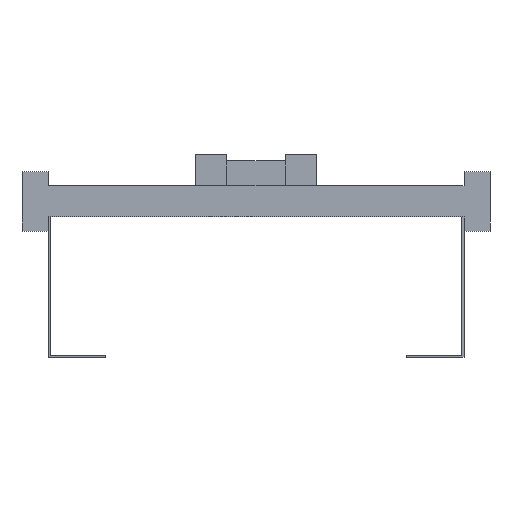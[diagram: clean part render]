
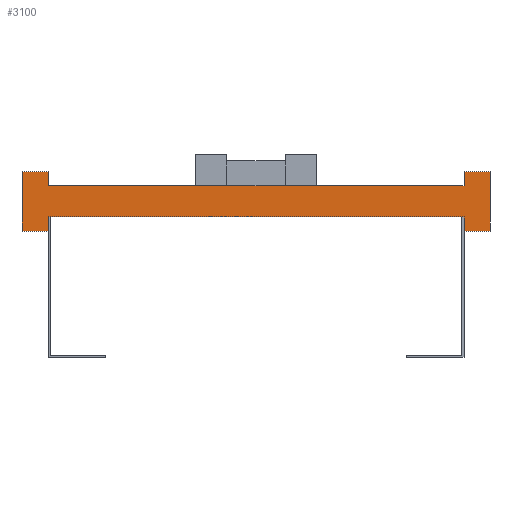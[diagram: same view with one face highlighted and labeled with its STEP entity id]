
A CAD part, front view. The second image highlights one B-rep face of the part: STEP entity #3100.
In plain terms, the highlighted planar face has unit normal (0, -1, 0).
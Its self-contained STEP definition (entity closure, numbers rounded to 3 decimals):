
#1=DIRECTION('',(0.,0.,1.));
#2=VECTOR('',#1,13.5);
#3=CARTESIAN_POINT('',(200.,0.,-28.5));
#4=LINE('',#3,#2);
#5=DIRECTION('',(0.,0.,-1.));
#6=VECTOR('',#5,13.5);
#7=CARTESIAN_POINT('',(-200.,0.,-15.));
#8=LINE('',#7,#6);
#9=DIRECTION('',(-1.,0.,0.));
#10=VECTOR('',#9,25.);
#11=CARTESIAN_POINT('',(-200.,0.,-28.5));
#12=LINE('',#11,#10);
#13=DIRECTION('',(0.,0.,1.));
#14=VECTOR('',#13,57.);
#15=CARTESIAN_POINT('',(-225.,0.,-28.5));
#16=LINE('',#15,#14);
#17=DIRECTION('',(1.,0.,0.));
#18=VECTOR('',#17,25.);
#19=CARTESIAN_POINT('',(-225.,0.,28.5));
#20=LINE('',#19,#18);
#21=DIRECTION('',(0.,0.,-1.));
#22=VECTOR('',#21,13.5);
#23=CARTESIAN_POINT('',(-200.,0.,28.5));
#24=LINE('',#23,#22);
#25=DIRECTION('',(0.,0.,1.));
#26=VECTOR('',#25,13.5);
#27=CARTESIAN_POINT('',(200.,0.,15.));
#28=LINE('',#27,#26);
#29=DIRECTION('',(1.,0.,0.));
#30=VECTOR('',#29,25.);
#31=CARTESIAN_POINT('',(200.,0.,28.5));
#32=LINE('',#31,#30);
#33=DIRECTION('',(0.,0.,-1.));
#34=VECTOR('',#33,57.);
#35=CARTESIAN_POINT('',(225.,0.,28.5));
#36=LINE('',#35,#34);
#37=DIRECTION('',(-1.,0.,0.));
#38=VECTOR('',#37,25.);
#39=CARTESIAN_POINT('',(225.,0.,-28.5));
#40=LINE('',#39,#38);
#2329=DIRECTION('',(1.,0.,0.));
#2330=VECTOR('',#2329,400.);
#2331=CARTESIAN_POINT('',(-200.,0.,-15.));
#2332=LINE('',#2331,#2330);
#2341=DIRECTION('',(1.,0.,0.));
#2342=VECTOR('',#2341,400.);
#2343=CARTESIAN_POINT('',(-200.,0.,15.));
#2344=LINE('',#2343,#2342);
#2345=CARTESIAN_POINT('',(-225.,0.,28.5));
#2346=CARTESIAN_POINT('',(-200.,0.,28.5));
#2347=VERTEX_POINT('',#2345);
#2348=VERTEX_POINT('',#2346);
#2349=CARTESIAN_POINT('',(-200.,0.,-28.5));
#2350=CARTESIAN_POINT('',(-225.,0.,-28.5));
#2351=VERTEX_POINT('',#2349);
#2352=VERTEX_POINT('',#2350);
#2353=CARTESIAN_POINT('',(225.,0.,28.5));
#2354=CARTESIAN_POINT('',(225.,0.,-28.5));
#2355=VERTEX_POINT('',#2353);
#2356=VERTEX_POINT('',#2354);
#2357=CARTESIAN_POINT('',(200.,0.,-28.5));
#2358=VERTEX_POINT('',#2357);
#2359=CARTESIAN_POINT('',(200.,0.,28.5));
#2360=VERTEX_POINT('',#2359);
#2377=CARTESIAN_POINT('',(-200.,0.,-15.));
#2379=VERTEX_POINT('',#2377);
#2381=CARTESIAN_POINT('',(-200.,0.,15.));
#2383=VERTEX_POINT('',#2381);
#2385=CARTESIAN_POINT('',(200.,0.,-15.));
#2387=VERTEX_POINT('',#2385);
#2389=CARTESIAN_POINT('',(200.,0.,15.));
#2391=VERTEX_POINT('',#2389);
#3069=CARTESIAN_POINT('',(0.,0.,0.));
#3070=DIRECTION('',(0.,1.,0.));
#3071=DIRECTION('',(1.,0.,0.));
#3072=AXIS2_PLACEMENT_3D('',#3069,#3070,#3071);
#3073=PLANE('',#3072);
#3075=ORIENTED_EDGE('',*,*,#3074,.T.);
#3077=ORIENTED_EDGE('',*,*,#3076,.F.);
#3079=ORIENTED_EDGE('',*,*,#3078,.T.);
#3081=ORIENTED_EDGE('',*,*,#3080,.T.);
#3083=ORIENTED_EDGE('',*,*,#3082,.T.);
#3085=ORIENTED_EDGE('',*,*,#3084,.T.);
#3087=ORIENTED_EDGE('',*,*,#3086,.T.);
#3089=ORIENTED_EDGE('',*,*,#3088,.T.);
#3091=ORIENTED_EDGE('',*,*,#3090,.T.);
#3093=ORIENTED_EDGE('',*,*,#3092,.T.);
#3095=ORIENTED_EDGE('',*,*,#3094,.T.);
#3097=ORIENTED_EDGE('',*,*,#3096,.T.);
#3098=EDGE_LOOP('',(#3075,#3077,#3079,#3081,#3083,#3085,#3087,#3089,#3091,#3093,
#3095,#3097));
#3099=FACE_OUTER_BOUND('',#3098,.F.);
#3100=ADVANCED_FACE('',(#3099),#3073,.F.);
#3074=EDGE_CURVE('',#2358,#2387,#4,.T.);
#3076=EDGE_CURVE('',#2379,#2387,#2332,.T.);
#3078=EDGE_CURVE('',#2379,#2351,#8,.T.);
#3080=EDGE_CURVE('',#2351,#2352,#12,.T.);
#3082=EDGE_CURVE('',#2352,#2347,#16,.T.);
#3084=EDGE_CURVE('',#2347,#2348,#20,.T.);
#3086=EDGE_CURVE('',#2348,#2383,#24,.T.);
#3088=EDGE_CURVE('',#2383,#2391,#2344,.T.);
#3090=EDGE_CURVE('',#2391,#2360,#28,.T.);
#3092=EDGE_CURVE('',#2360,#2355,#32,.T.);
#3094=EDGE_CURVE('',#2355,#2356,#36,.T.);
#3096=EDGE_CURVE('',#2356,#2358,#40,.T.);
